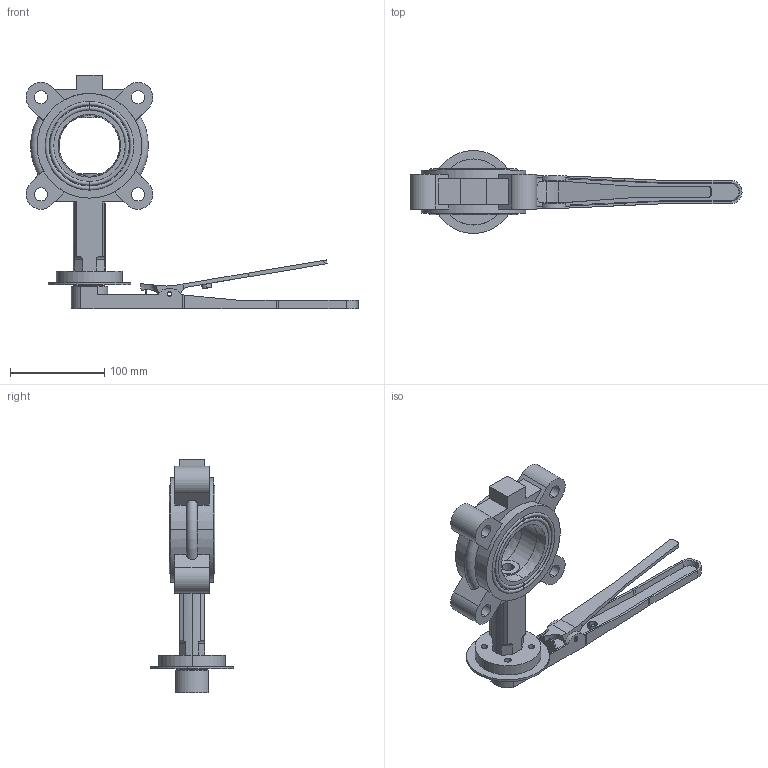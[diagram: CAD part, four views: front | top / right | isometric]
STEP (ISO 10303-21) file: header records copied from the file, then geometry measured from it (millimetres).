
FILE_DESCRIPTION (( 'STEP AP203' ), '1' );
FILE_NAME ('DN65凸耳手柄2.5寸.STEP', '2026-06-16T07:48:25', ( '微软用户' ), ( '微软中国' ), 'SwSTEP 2.0', 'SolidWorks 2024', '' );
FILE_SCHEMA (( 'CONFIG_CONTROL_DESIGN' ));
Length unit declared in the file: millimetre
Products named in the file (8): spring pin slotted light duty1 gb_GB_PARALLEL_PINS_TYPE7 5X35; 衬胶2.5寸; 3寸齿盘; 玛钢手柄弹簧本体9; 玛钢手柄装配9; 玛钢手柄本体9; 65凸耳，3.8_step; DN65凸耳手柄2.5寸
Assembly tree (7 placements, depth 3):
  DN65凸耳手柄2.5寸
    65凸耳，3.8_step
    衬胶2.5寸
    玛钢手柄装配9
      玛钢手柄本体9
      玛钢手柄弹簧本体9
      spring pin slotted light duty1 gb_GB_PARALLEL_PINS_TYPE7 5X35
    3寸齿盘
Bounding box: 351.99 x 87.78 x 248 mm (x, y, z)
Volume: 632582 mm3; surface area: 204788.2 mm2
Topology: 7 solids, 7 shells, 297 faces, 783 edges, 514 vertices
Faces by surface type: plane 136, cylinder 110, cone 31, torus 18, bspline 2
Entity records: 11115 total; most frequent: CARTESIAN_POINT 2687, DIRECTION 1633, ORIENTED_EDGE 1566, EDGE_CURVE 783, AXIS2_PLACEMENT_3D 610, VERTEX_POINT 514, LINE 413, VECTOR 413
